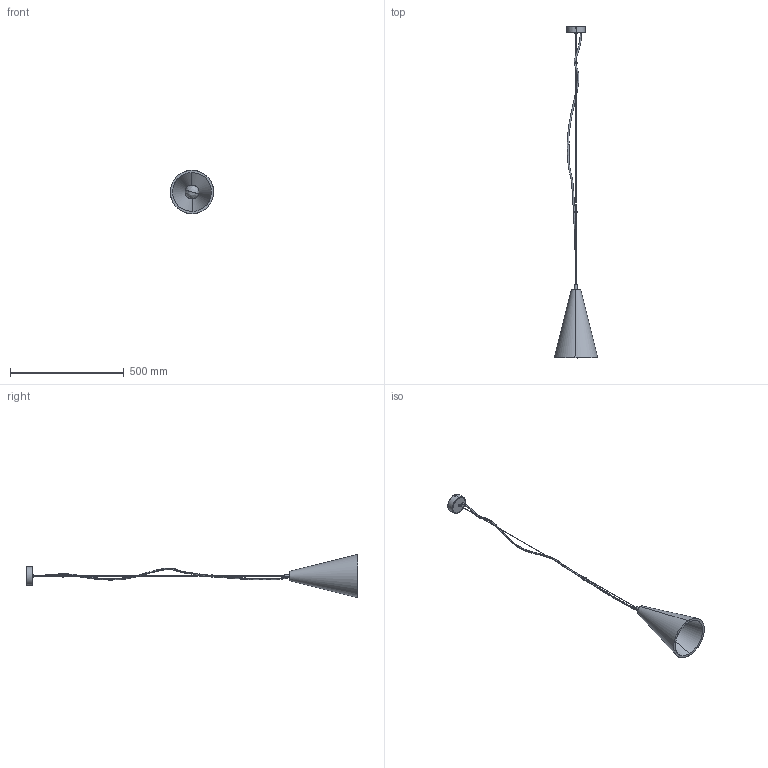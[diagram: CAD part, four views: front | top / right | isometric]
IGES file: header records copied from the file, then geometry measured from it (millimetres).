
Start section: SolidWorks IGES file using NURBS representation for surfaces
Global section: file name: Z:\Modele 3D_WWW\_KOLEKCJE_WWW\VOLCANO-L-6852\VOLCANO-L-6852.IGS; native system: SolidWorks 2021; preprocessor: SolidWorks 2021; author: gabriela.tworek; date: 210910.093929; units: millimetre
Bounding box: 190 x 1456.91 x 189.79 mm (x, y, z)
Surface area: 278961.1 mm2 (no closed solid volume)
Topology: 0 solids, 0 shells, 466 faces, 5239 edges, 5231 vertices
Faces by surface type: bspline 466
